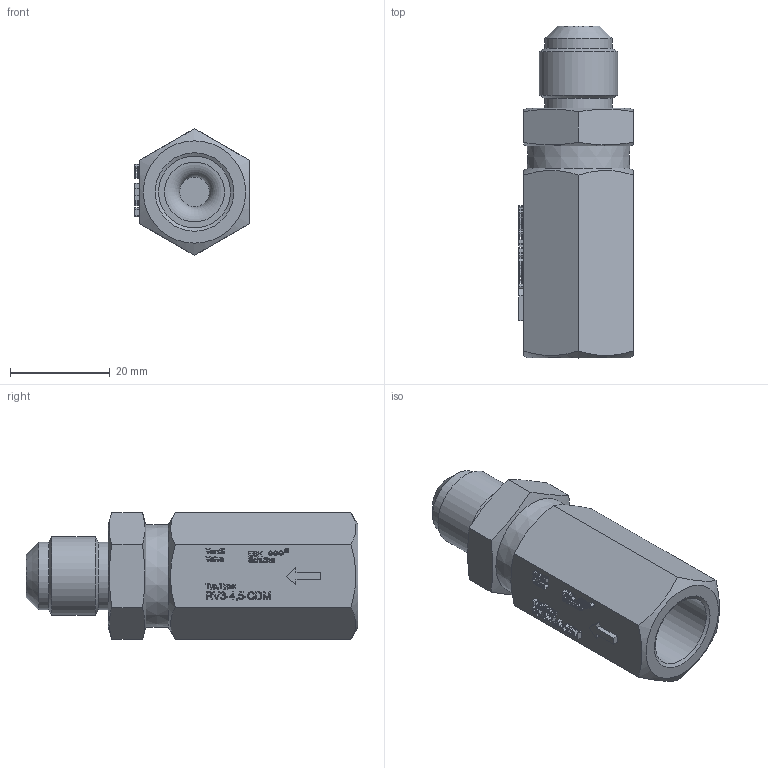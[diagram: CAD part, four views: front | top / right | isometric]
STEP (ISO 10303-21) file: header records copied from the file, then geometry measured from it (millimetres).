
FILE_DESCRIPTION(/* description */ (''),/* implementation_level */ '2;1');
FILE_NAME(/* name */ 'P:\RV\RV3-4,5-CDM\RV3-4,5-CDM.stp',/* time_stamp */ '2017-02-17T09:01:57+01:00',/* author */ ('neufeld'),/* organization */ (''),/* preprocessor_version */ 'ST-DEVELOPER v16.1',/* originating_system */ 'Autodesk Inventor 2016',/* authorisation */ '');
FILE_SCHEMA (('AUTOMOTIVE_DESIGN { 1 0 10303 214 3 1 1 }'));
Length unit declared in the file: millimetre
Products named in the file (1): RV3-4,5-CDM_AG-Kunde
Bounding box: 23 x 66.5 x 25.4 mm (x, y, z)
Volume: 20892.8 mm3; surface area: 6371 mm2
Topology: 1 solids, 1 shells, 815 faces, 2229 edges, 1482 vertices
Faces by surface type: plane 571, bspline 229, cone 9, cylinder 5, torus 1
Full cylindrical faces by diameter (mm): 7 x1, 13.5 x2, 14.4 x1, 15.745 x1
Entity records: 26596 total; most frequent: CARTESIAN_POINT 7533, ORIENTED_EDGE 4428, DIRECTION 2924, EDGE_CURVE 2214, LINE 1714, VECTOR 1714, VERTEX_POINT 1482, EDGE_LOOP 896
